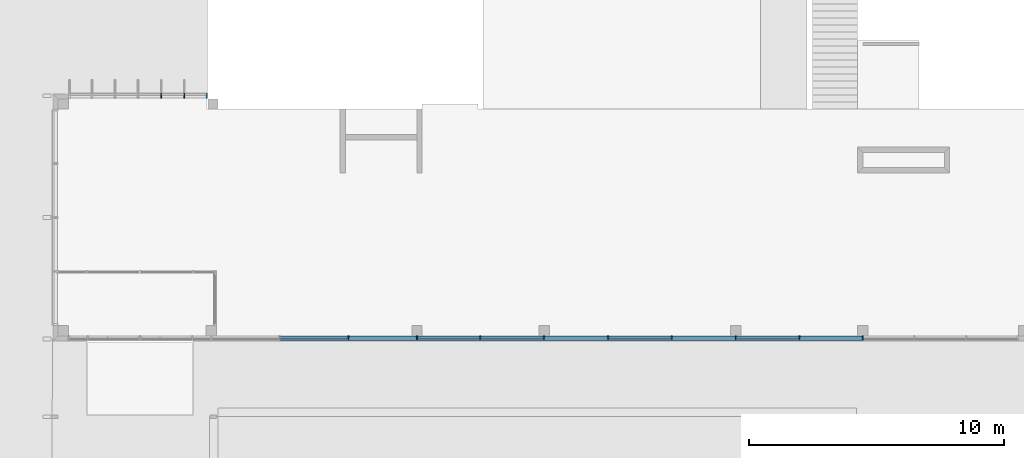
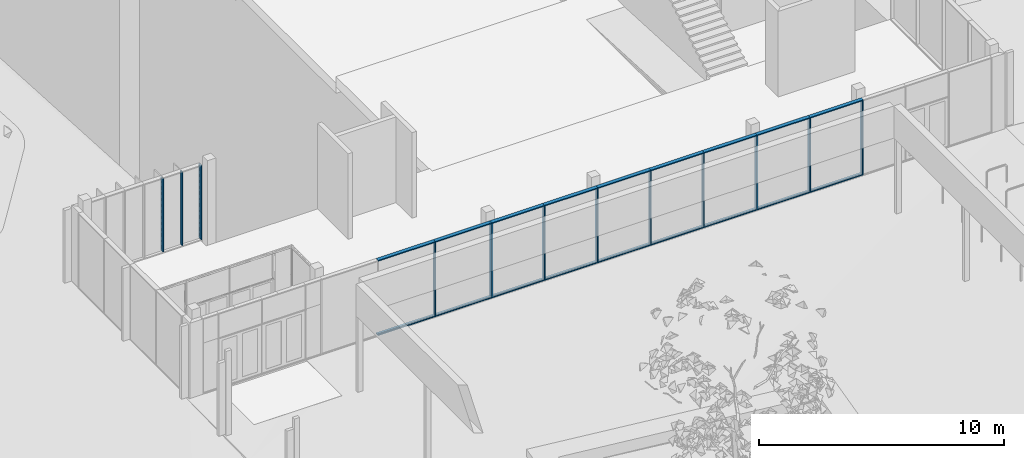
# One storey, part 5 of 69: 32 members, 4 elements without a shape of their own.
"""IFC2X3 building model written with IfcOpenShell, lengths in millimetres."""

from ifc_helpers import new_model, entity, si_unit, converted_unit, derived_unit, money_unit, direction, frame, origin_with_axes, place, context, subcontext, project, spatial, polyline, outline, extrude, clip, halfspace, material, type_object, element, aggregate, save


model = new_model("IFC2X3")

# Units and contexts
model_context = context("Model", 3, precision=0.01, world=origin_with_axes(), true_north=direction((0.0, 1.0)))
body_context = subcontext(model_context, "Body", "Model", "MODEL_VIEW")
ifc_project = project(units=[si_unit("LENGTHUNIT", "METRE", prefix="MILLI"), si_unit("AREAUNIT", "SQUARE_METRE"), si_unit("VOLUMEUNIT", "CUBIC_METRE"), converted_unit("PLANEANGLEUNIT", "DEGREE", entity("IfcPlaneAngleMeasure", 0.0174532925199), si_unit("PLANEANGLEUNIT", "RADIAN"), dimensions=[0, 0, 0, 0, 0, 0, 0]), si_unit("SOLIDANGLEUNIT", "STERADIAN"), money_unit("EUR"), converted_unit("TIMEUNIT", "Year", entity("IfcTimeMeasure", 31556926.0), si_unit("TIMEUNIT", "SECOND"), dimensions=[0, 0, 1, 0, 0, 0, 0]), si_unit("MASSUNIT", "GRAM", prefix="KILO"), si_unit("THERMODYNAMICTEMPERATUREUNIT", "DEGREE_CELSIUS"), si_unit("LUMINOUSINTENSITYUNIT", "LUMEN"), si_unit("ENERGYUNIT", "JOULE", prefix="MEGA"), derived_unit("THERMALCONDUCTANCEUNIT", [(si_unit("POWERUNIT", "WATT"), 1), (si_unit("LENGTHUNIT", "METRE"), -1), (si_unit("THERMODYNAMICTEMPERATUREUNIT", "KELVIN"), -1)]), derived_unit("SPECIFICHEATCAPACITYUNIT", [(si_unit("ENERGYUNIT", "JOULE"), 1), (si_unit("MASSUNIT", "GRAM", prefix="KILO"), -1), (si_unit("THERMODYNAMICTEMPERATUREUNIT", "KELVIN"), -1)]), derived_unit("MASSDENSITYUNIT", [(si_unit("MASSUNIT", "GRAM", prefix="KILO"), 1), (si_unit("VOLUMEUNIT", "CUBIC_METRE"), -1)])], contexts=[model_context])

# Site, building, storey
site_placement = place(None, origin_with_axes())
site = spatial("IfcSite", under=ifc_project, at=site_placement, Name="Puškini 31, Narva", CompositionType="ELEMENT")
building_placement = place(site_placement, origin_with_axes())
building = spatial("IfcBuilding", under=site, at=building_placement, Name="Narva Riigigümnaasium", CompositionType="ELEMENT")
storey_placement = place(building_placement, origin_with_axes())
storey = spatial("IfcBuildingStorey", under=building, at=storey_placement, Name="1.korrus 0.00", CompositionType="ELEMENT", Elevation=0.0)

# Curtain wall, members
curtain_wall_type = type_object("IfcCurtainWallType", Name="Curtain Wall Type", PredefinedType="NOTDEFINED")
curtain_wall_1_placement = place(storey_placement, frame((46469.7142802, 149970.00001, 0.0), z_axis=(0.0, 0.0, 1.0), x_axis=(1.0, 0.0, 0.0)))
curtain_wall_1 = element("IfcCurtainWall", 1, at=curtain_wall_1_placement, inside=storey, type_object=curtain_wall_type, Name="G-KLF-01")
ifc_material = material(Name="ET-04_Alumiinium")
member_type_1 = type_object("IfcMemberType", Name="Mullion Frame 50 x 176", PredefinedType="MULLION")
member_1_placement = place(curtain_wall_1_placement, frame((-1253.28571396, 0.0, 0.0), z_axis=(0.0, 0.0, 1.0), x_axis=(1.0, 0.0, 0.0)))
member_1 = element("IfcMember", 2, at=member_1_placement, type_object=member_type_1, material=ifc_material, Name="Klaasfassaadi raam", ObjectType="MULLION", context=body_context, shape_type="SweptSolid", body=[
    extrude(outline(polyline([(-10.0, 29.0), (-10.0, -29.0), (-25.0, -29.0), (-25.0, -46.0), (25.0, -46.0), (25.0, -29.0), (10.0, -29.0), (10.0, 29.0), (25.0, 29.0), (25.0, 130.0), (-25.0, 130.0), (-25.0, 29.0), (-10.0, 29.0)])), frame((0.0, 0.0, 50.0), z_axis=(0.0, 0.0, 1.0), x_axis=(1.0, 0.0, 0.0)), (0.0, 0.0, 1.0), 3660.0),
])
member_2_placement = place(curtain_wall_1_placement, frame((-3759.85714187, 0.0, 0.0), z_axis=(0.0, 0.0, 1.0), x_axis=(1.0, 0.0, 0.0)))
member_2 = element("IfcMember", 3, at=member_2_placement, type_object=member_type_1, material=ifc_material, Name="Klaasfassaadi raam", ObjectType="MULLION", context=body_context, shape_type="SweptSolid", body=[
    extrude(outline(polyline([(-10.0, 29.0), (-10.0, -29.0), (-25.0, -29.0), (-25.0, -46.0), (25.0, -46.0), (25.0, -29.0), (10.0, -29.0), (10.0, 29.0), (25.0, 29.0), (25.0, 130.0), (-25.0, 130.0), (-25.0, 29.0), (-10.0, 29.0)])), frame((0.0, 0.0, 50.0), z_axis=(0.0, 0.0, 1.0), x_axis=(1.0, 0.0, 0.0)), (0.0, 0.0, 1.0), 3660.0),
])
member_3_placement = place(curtain_wall_1_placement, frame((-6266.42856978, 0.0, 0.0), z_axis=(0.0, 0.0, 1.0), x_axis=(1.0, 0.0, 0.0)))
member_3 = element("IfcMember", 4, at=member_3_placement, type_object=member_type_1, material=ifc_material, Name="Klaasfassaadi raam", ObjectType="MULLION", context=body_context, shape_type="SweptSolid", body=[
    extrude(outline(polyline([(-10.0, 29.0), (-10.0, -29.0), (-25.0, -29.0), (-25.0, -46.0), (25.0, -46.0), (25.0, -29.0), (10.0, -29.0), (10.0, 29.0), (25.0, 29.0), (25.0, 130.0), (-25.0, 130.0), (-25.0, 29.0), (-10.0, 29.0)])), frame((0.0, 0.0, 50.0), z_axis=(0.0, 0.0, 1.0), x_axis=(1.0, 0.0, 0.0)), (0.0, 0.0, 1.0), 3660.0),
])
member_4_placement = place(curtain_wall_1_placement, frame((-8772.99999769, 0.0, 0.0), z_axis=(0.0, 0.0, 1.0), x_axis=(1.0, 0.0, 0.0)))
member_4 = element("IfcMember", 5, at=member_4_placement, type_object=member_type_1, material=ifc_material, Name="Klaasfassaadi raam", ObjectType="MULLION", context=body_context, shape_type="SweptSolid", body=[
    extrude(outline(polyline([(-10.0, 29.0), (-10.0, -29.0), (-25.0, -29.0), (-25.0, -46.0), (25.0, -46.0), (25.0, -29.0), (10.0, -29.0), (10.0, 29.0), (25.0, 29.0), (25.0, 130.0), (-25.0, 130.0), (-25.0, 29.0), (-10.0, 29.0)])), frame((0.0, 0.0, 50.0), z_axis=(0.0, 0.0, 1.0), x_axis=(1.0, 0.0, 0.0)), (0.0, 0.0, 1.0), 3660.0),
])
member_5_placement = place(curtain_wall_1_placement, frame((-11279.5714256, 0.0, 0.0), z_axis=(0.0, 0.0, 1.0), x_axis=(1.0, 0.0, 0.0)))
member_5 = element("IfcMember", 6, at=member_5_placement, type_object=member_type_1, material=ifc_material, Name="Klaasfassaadi raam", ObjectType="MULLION", context=body_context, shape_type="SweptSolid", body=[
    extrude(outline(polyline([(-10.0, 29.0), (-10.0, -29.0), (-25.0, -29.0), (-25.0, -46.0), (25.0, -46.0), (25.0, -29.0), (10.0, -29.0), (10.0, 29.0), (25.0, 29.0), (25.0, 130.0), (-25.0, 130.0), (-25.0, 29.0), (-10.0, 29.0)])), frame((0.0, 0.0, 50.0), z_axis=(0.0, 0.0, 1.0), x_axis=(1.0, 0.0, 0.0)), (0.0, 0.0, 1.0), 3660.0),
])
member_6_placement = place(curtain_wall_1_placement, frame((-13786.1428535, 0.0, 0.0), z_axis=(0.0, 0.0, 1.0), x_axis=(1.0, 0.0, 0.0)))
member_6 = element("IfcMember", 7, at=member_6_placement, type_object=member_type_1, material=ifc_material, Name="Klaasfassaadi raam", ObjectType="MULLION", context=body_context, shape_type="SweptSolid", body=[
    extrude(outline(polyline([(-10.0, 29.0), (-10.0, -29.0), (-25.0, -29.0), (-25.0, -46.0), (25.0, -46.0), (25.0, -29.0), (10.0, -29.0), (10.0, 29.0), (25.0, 29.0), (25.0, 130.0), (-25.0, 130.0), (-25.0, 29.0), (-10.0, 29.0)])), frame((0.0, 0.0, 50.0), z_axis=(0.0, 0.0, 1.0), x_axis=(1.0, 0.0, 0.0)), (0.0, 0.0, 1.0), 3660.0),
])

# Curtain wall, member
curtain_wall_2_placement = place(storey_placement, frame((28873.394571, 149970.00001, 0.0), z_axis=(0.0, 0.0, 1.0), x_axis=(1.0, 0.0, 0.0)))
curtain_wall_2 = element("IfcCurtainWall", 8, at=curtain_wall_2_placement, inside=storey, type_object=curtain_wall_type, Name="G-KLF-01b")
member_7_placement = place(curtain_wall_2_placement, frame((-1353.60542777, 0.0, 0.0), z_axis=(0.0, 0.0, 1.0), x_axis=(1.0, 0.0, 0.0)))
member_7 = element("IfcMember", 9, at=member_7_placement, type_object=member_type_1, material=ifc_material, Name="Klaasfassaadi raam", ObjectType="MULLION", context=body_context, shape_type="SweptSolid", body=[
    extrude(outline(polyline([(-10.0, 29.0), (-10.0, -29.0), (-25.0, -29.0), (-25.0, -46.0), (25.0, -46.0), (25.0, -29.0), (10.0, -29.0), (10.0, 29.0), (25.0, 29.0), (25.0, 130.0), (-25.0, 130.0), (-25.0, 29.0), (-10.0, 29.0)])), frame((0.0, 0.0, 50.0), z_axis=(0.0, 0.0, 1.0), x_axis=(1.0, 0.0, 0.0)), (0.0, 0.0, 1.0), 3660.0),
])

# Member
member_type_2 = type_object("IfcMemberType", Name="Boundary Frame 50 x 176", PredefinedType="MULLION")
member_8_placement = place(curtain_wall_1_placement, frame((1253.28571396, 0.0, 0.0), z_axis=(-1.0, 0.0, 0.0), x_axis=(0.0, 0.0, 1.0)))
member_8 = element("IfcMember", 10, at=member_8_placement, type_object=member_type_2, material=ifc_material, Name="Klaasfassaadi raam", ObjectType="MULLION", context=body_context, shape_type="Clipping", body=[
    clip(extrude(outline(polyline([(29.0, -35.0), (29.0, -50.0), (130.0, -50.0), (130.0, 0.0), (-46.0, 0.0), (-46.0, -50.0), (-29.0, -50.0), (-29.0, -35.0), (29.0, -35.0)])), frame((0.0, 0.0, 0.0), z_axis=(0.0, 0.0, 1.0), x_axis=(0.0, 1.0, 0.0)), (0.0, 0.0, 1.0), 2506.57142791), halfspace(frame((0.0, 0.0, 0.0), z_axis=(-0.707106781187, 0.0, 0.707106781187), x_axis=(0.0, -1.0, 0.0)), True)),
])

member_9_placement = place(curtain_wall_1_placement, frame((1253.28571396, 0.0, 3760.0), z_axis=(-1.0, 0.0, 0.0), x_axis=(0.0, 0.0, 1.0)))
member_9 = element("IfcMember", 11, at=member_9_placement, type_object=member_type_2, material=ifc_material, Name="Klaasfassaadi raam", ObjectType="MULLION", context=body_context, shape_type="Clipping", body=[
    clip(extrude(outline(polyline([(29.0, 35.0), (-29.0, 35.0), (-29.0, 50.0), (-46.0, 50.0), (-46.0, 0.0), (130.0, 0.0), (130.0, 50.0), (29.0, 50.0), (29.0, 35.0)])), frame((0.0, 0.0, 0.0), z_axis=(0.0, 0.0, 1.0), x_axis=(0.0, 1.0, 0.0)), (0.0, 0.0, 1.0), 2506.57142791), halfspace(frame((0.0, 0.0, 0.0), z_axis=(0.707106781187, 0.0, 0.707106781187), x_axis=(0.0, -1.0, 0.0)), True)),
])

member_10_placement = place(curtain_wall_1_placement, frame((1253.28571396, 0.0, 0.0), z_axis=(0.0, 0.0, 1.0), x_axis=(1.0, 0.0, 0.0)))
member_10 = element("IfcMember", 12, at=member_10_placement, type_object=member_type_2, material=ifc_material, Name="Klaasfassaadi raam", ObjectType="MULLION", context=body_context, shape_type="Clipping", body=[
    clip(clip(extrude(outline(polyline([(-35.0, 29.0), (-35.0, -29.0), (-50.0, -29.0), (-50.0, -46.0), (0.0, -46.0), (0.0, 130.0), (-50.0, 130.0), (-50.0, 29.0), (-35.0, 29.0)])), origin_with_axes(), (0.0, 0.0, 1.0), 3760.0), halfspace(frame((-1880.0, 0.0, 1880.0), z_axis=(0.707106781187, 0.0, -0.707106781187), x_axis=(0.0, 1.0, 0.0)), True)), halfspace(frame((0.0, 0.0, 0.0), z_axis=(0.707106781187, 0.0, 0.707106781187), x_axis=(0.0, -1.0, 0.0)), True)),
])

member_11_placement = place(curtain_wall_1_placement, frame((-1253.28571396, 0.0, 0.0), z_axis=(-1.0, 0.0, 0.0), x_axis=(0.0, 0.0, 1.0)))
member_11 = element("IfcMember", 13, at=member_11_placement, type_object=member_type_2, material=ifc_material, Name="Klaasfassaadi raam", ObjectType="MULLION", context=body_context, shape_type="SweptSolid", body=[
    extrude(outline(polyline([(29.0, -35.0), (29.0, -50.0), (130.0, -50.0), (130.0, 0.0), (-46.0, 0.0), (-46.0, -50.0), (-29.0, -50.0), (-29.0, -35.0), (29.0, -35.0)])), frame((0.0, 0.0, 0.0), z_axis=(0.0, 0.0, 1.0), x_axis=(0.0, 1.0, 0.0)), (0.0, 0.0, 1.0), 2506.57142791),
])

member_12_placement = place(curtain_wall_1_placement, frame((-1253.28571396, 0.0, 3760.0), z_axis=(-1.0, 0.0, 0.0), x_axis=(0.0, 0.0, 1.0)))
member_12 = element("IfcMember", 14, at=member_12_placement, type_object=member_type_2, material=ifc_material, Name="Klaasfassaadi raam", ObjectType="MULLION", context=body_context, shape_type="SweptSolid", body=[
    extrude(outline(polyline([(29.0, 35.0), (-29.0, 35.0), (-29.0, 50.0), (-46.0, 50.0), (-46.0, 0.0), (130.0, 0.0), (130.0, 50.0), (29.0, 50.0), (29.0, 35.0)])), frame((0.0, 0.0, 0.0), z_axis=(0.0, 0.0, 1.0), x_axis=(0.0, 1.0, 0.0)), (0.0, 0.0, 1.0), 2506.57142791),
])

member_13_placement = place(curtain_wall_1_placement, frame((-3759.85714187, 0.0, 0.0), z_axis=(-1.0, 0.0, 0.0), x_axis=(0.0, 0.0, 1.0)))
member_13 = element("IfcMember", 15, at=member_13_placement, type_object=member_type_2, material=ifc_material, Name="Klaasfassaadi raam", ObjectType="MULLION", context=body_context, shape_type="SweptSolid", body=[
    extrude(outline(polyline([(29.0, -35.0), (29.0, -50.0), (130.0, -50.0), (130.0, 0.0), (-46.0, 0.0), (-46.0, -50.0), (-29.0, -50.0), (-29.0, -35.0), (29.0, -35.0)])), frame((0.0, 0.0, 0.0), z_axis=(0.0, 0.0, 1.0), x_axis=(0.0, 1.0, 0.0)), (0.0, 0.0, 1.0), 2506.57142791),
])

member_14_placement = place(curtain_wall_1_placement, frame((-3759.85714187, 0.0, 3760.0), z_axis=(-1.0, 0.0, 0.0), x_axis=(0.0, 0.0, 1.0)))
member_14 = element("IfcMember", 16, at=member_14_placement, type_object=member_type_2, material=ifc_material, Name="Klaasfassaadi raam", ObjectType="MULLION", context=body_context, shape_type="SweptSolid", body=[
    extrude(outline(polyline([(29.0, 35.0), (-29.0, 35.0), (-29.0, 50.0), (-46.0, 50.0), (-46.0, 0.0), (130.0, 0.0), (130.0, 50.0), (29.0, 50.0), (29.0, 35.0)])), frame((0.0, 0.0, 0.0), z_axis=(0.0, 0.0, 1.0), x_axis=(0.0, 1.0, 0.0)), (0.0, 0.0, 1.0), 2506.57142791),
])

member_15_placement = place(curtain_wall_1_placement, frame((-6266.42856978, 0.0, 0.0), z_axis=(-1.0, 0.0, 0.0), x_axis=(0.0, 0.0, 1.0)))
member_15 = element("IfcMember", 17, at=member_15_placement, type_object=member_type_2, material=ifc_material, Name="Klaasfassaadi raam", ObjectType="MULLION", context=body_context, shape_type="SweptSolid", body=[
    extrude(outline(polyline([(29.0, -35.0), (29.0, -50.0), (130.0, -50.0), (130.0, 0.0), (-46.0, 0.0), (-46.0, -50.0), (-29.0, -50.0), (-29.0, -35.0), (29.0, -35.0)])), frame((0.0, 0.0, 0.0), z_axis=(0.0, 0.0, 1.0), x_axis=(0.0, 1.0, 0.0)), (0.0, 0.0, 1.0), 2506.57142791),
])

member_16_placement = place(curtain_wall_1_placement, frame((-6266.42856978, 0.0, 3760.0), z_axis=(-1.0, 0.0, 0.0), x_axis=(0.0, 0.0, 1.0)))
member_16 = element("IfcMember", 18, at=member_16_placement, type_object=member_type_2, material=ifc_material, Name="Klaasfassaadi raam", ObjectType="MULLION", context=body_context, shape_type="SweptSolid", body=[
    extrude(outline(polyline([(29.0, 35.0), (-29.0, 35.0), (-29.0, 50.0), (-46.0, 50.0), (-46.0, 0.0), (130.0, 0.0), (130.0, 50.0), (29.0, 50.0), (29.0, 35.0)])), frame((0.0, 0.0, 0.0), z_axis=(0.0, 0.0, 1.0), x_axis=(0.0, 1.0, 0.0)), (0.0, 0.0, 1.0), 2506.57142791),
])

member_17_placement = place(curtain_wall_1_placement, frame((-8772.99999769, 0.0, 0.0), z_axis=(-1.0, 0.0, 0.0), x_axis=(0.0, 0.0, 1.0)))
member_17 = element("IfcMember", 19, at=member_17_placement, type_object=member_type_2, material=ifc_material, Name="Klaasfassaadi raam", ObjectType="MULLION", context=body_context, shape_type="SweptSolid", body=[
    extrude(outline(polyline([(29.0, -35.0), (29.0, -50.0), (130.0, -50.0), (130.0, 0.0), (-46.0, 0.0), (-46.0, -50.0), (-29.0, -50.0), (-29.0, -35.0), (29.0, -35.0)])), frame((0.0, 0.0, 0.0), z_axis=(0.0, 0.0, 1.0), x_axis=(0.0, 1.0, 0.0)), (0.0, 0.0, 1.0), 2506.57142791),
])

member_18_placement = place(curtain_wall_1_placement, frame((-8772.99999769, 0.0, 3760.0), z_axis=(-1.0, 0.0, 0.0), x_axis=(0.0, 0.0, 1.0)))
member_18 = element("IfcMember", 20, at=member_18_placement, type_object=member_type_2, material=ifc_material, Name="Klaasfassaadi raam", ObjectType="MULLION", context=body_context, shape_type="SweptSolid", body=[
    extrude(outline(polyline([(29.0, 35.0), (-29.0, 35.0), (-29.0, 50.0), (-46.0, 50.0), (-46.0, 0.0), (130.0, 0.0), (130.0, 50.0), (29.0, 50.0), (29.0, 35.0)])), frame((0.0, 0.0, 0.0), z_axis=(0.0, 0.0, 1.0), x_axis=(0.0, 1.0, 0.0)), (0.0, 0.0, 1.0), 2506.57142791),
])

member_19_placement = place(curtain_wall_1_placement, frame((-11279.5714256, 0.0, 0.0), z_axis=(-1.0, 0.0, 0.0), x_axis=(0.0, 0.0, 1.0)))
member_19 = element("IfcMember", 21, at=member_19_placement, type_object=member_type_2, material=ifc_material, Name="Klaasfassaadi raam", ObjectType="MULLION", context=body_context, shape_type="SweptSolid", body=[
    extrude(outline(polyline([(29.0, -35.0), (29.0, -50.0), (130.0, -50.0), (130.0, 0.0), (-46.0, 0.0), (-46.0, -50.0), (-29.0, -50.0), (-29.0, -35.0), (29.0, -35.0)])), frame((0.0, 0.0, 0.0), z_axis=(0.0, 0.0, 1.0), x_axis=(0.0, 1.0, 0.0)), (0.0, 0.0, 1.0), 2506.57142791),
])

member_20_placement = place(curtain_wall_1_placement, frame((-11279.5714256, 0.0, 3760.0), z_axis=(-1.0, 0.0, 0.0), x_axis=(0.0, 0.0, 1.0)))
member_20 = element("IfcMember", 22, at=member_20_placement, type_object=member_type_2, material=ifc_material, Name="Klaasfassaadi raam", ObjectType="MULLION", context=body_context, shape_type="SweptSolid", body=[
    extrude(outline(polyline([(29.0, 35.0), (-29.0, 35.0), (-29.0, 50.0), (-46.0, 50.0), (-46.0, 0.0), (130.0, 0.0), (130.0, 50.0), (29.0, 50.0), (29.0, 35.0)])), frame((0.0, 0.0, 0.0), z_axis=(0.0, 0.0, 1.0), x_axis=(0.0, 1.0, 0.0)), (0.0, 0.0, 1.0), 2506.57142791),
])

member_21_placement = place(curtain_wall_1_placement, frame((-13786.1428535, 0.0, 0.0), z_axis=(-1.0, 0.0, 0.0), x_axis=(0.0, 0.0, 1.0)))
member_21 = element("IfcMember", 23, at=member_21_placement, type_object=member_type_2, material=ifc_material, Name="Klaasfassaadi raam", ObjectType="MULLION", context=body_context, shape_type="Clipping", body=[
    clip(extrude(outline(polyline([(29.0, -35.0), (29.0, -50.0), (130.0, -50.0), (130.0, 0.0), (-46.0, 0.0), (-46.0, -50.0), (-29.0, -50.0), (-29.0, -35.0), (29.0, -35.0)])), frame((0.0, 0.0, 0.0), z_axis=(0.0, 0.0, 1.0), x_axis=(0.0, 1.0, 0.0)), (0.0, 0.0, 1.0), 2506.57142791), halfspace(frame((1253.28571396, 0.0, 1253.28571396), z_axis=(-0.707106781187, 0.0, -0.707106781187), x_axis=(0.0, 1.0, 0.0)), True)),
])

member_22_placement = place(curtain_wall_1_placement, frame((-16292.7142814, 0.0, 0.0), z_axis=(0.0, 0.0, 1.0), x_axis=(1.0, 0.0, 0.0)))
member_22 = element("IfcMember", 24, at=member_22_placement, type_object=member_type_2, material=ifc_material, Name="Klaasfassaadi raam", ObjectType="MULLION", context=body_context, shape_type="Clipping", body=[
    clip(clip(extrude(outline(polyline([(35.0, 29.0), (50.0, 29.0), (50.0, 130.0), (0.0, 130.0), (0.0, -46.0), (50.0, -46.0), (50.0, -29.0), (35.0, -29.0), (35.0, 29.0)])), origin_with_axes(), (0.0, 0.0, 1.0), 3760.0), halfspace(frame((1880.0, 0.0, 1880.0), z_axis=(-0.707106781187, 0.0, -0.707106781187), x_axis=(0.0, 1.0, 0.0)), True)), halfspace(frame((0.0, 0.0, 0.0), z_axis=(-0.707106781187, 0.0, 0.707106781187), x_axis=(0.0, -1.0, 0.0)), True)),
])

member_23_placement = place(curtain_wall_1_placement, frame((-13786.1428535, 0.0, 3760.0), z_axis=(-1.0, 0.0, 0.0), x_axis=(0.0, 0.0, 1.0)))
member_23 = element("IfcMember", 25, at=member_23_placement, type_object=member_type_2, material=ifc_material, Name="Klaasfassaadi raam", ObjectType="MULLION", context=body_context, shape_type="Clipping", body=[
    clip(extrude(outline(polyline([(29.0, 35.0), (-29.0, 35.0), (-29.0, 50.0), (-46.0, 50.0), (-46.0, 0.0), (130.0, 0.0), (130.0, 50.0), (29.0, 50.0), (29.0, 35.0)])), frame((0.0, 0.0, 0.0), z_axis=(0.0, 0.0, 1.0), x_axis=(0.0, 1.0, 0.0)), (0.0, 0.0, 1.0), 2506.57142791), halfspace(frame((-1253.28571396, 0.0, 1253.28571396), z_axis=(0.707106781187, 0.0, -0.707106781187), x_axis=(0.0, 1.0, 0.0)), True)),
])

aggregate(curtain_wall_1, [member_8, member_9, member_10, member_11, member_12, member_1, member_13, member_14, member_2, member_15, member_16, member_3, member_17, member_18, member_4, member_19, member_20, member_5, member_21, member_22, member_23, member_6])

member_24_placement = place(curtain_wall_2_placement, frame((1353.60542777, 0.0, 0.0), z_axis=(-1.0, 0.0, 0.0), x_axis=(0.0, 0.0, 1.0)))
member_24 = element("IfcMember", 26, at=member_24_placement, type_object=member_type_2, material=ifc_material, Name="Klaasfassaadi raam", ObjectType="MULLION", context=body_context, shape_type="Clipping", body=[
    clip(extrude(outline(polyline([(29.0, -35.0), (29.0, -50.0), (130.0, -50.0), (130.0, 0.0), (-46.0, 0.0), (-46.0, -50.0), (-29.0, -50.0), (-29.0, -35.0), (29.0, -35.0)])), frame((0.0, 0.0, 0.0), z_axis=(0.0, 0.0, 1.0), x_axis=(0.0, 1.0, 0.0)), (0.0, 0.0, 1.0), 2707.21085553), halfspace(frame((0.0, 0.0, 0.0), z_axis=(-0.707106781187, 0.0, 0.707106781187), x_axis=(0.0, -1.0, 0.0)), True)),
])

member_25_placement = place(curtain_wall_2_placement, frame((1353.60542777, 0.0, 3760.0), z_axis=(-1.0, 0.0, 0.0), x_axis=(0.0, 0.0, 1.0)))
member_25 = element("IfcMember", 27, at=member_25_placement, type_object=member_type_2, material=ifc_material, Name="Klaasfassaadi raam", ObjectType="MULLION", context=body_context, shape_type="Clipping", body=[
    clip(extrude(outline(polyline([(29.0, 35.0), (-29.0, 35.0), (-29.0, 50.0), (-46.0, 50.0), (-46.0, 0.0), (130.0, 0.0), (130.0, 50.0), (29.0, 50.0), (29.0, 35.0)])), frame((0.0, 0.0, 0.0), z_axis=(0.0, 0.0, 1.0), x_axis=(0.0, 1.0, 0.0)), (0.0, 0.0, 1.0), 2707.21085553), halfspace(frame((0.0, 0.0, 0.0), z_axis=(0.707106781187, 0.0, 0.707106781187), x_axis=(0.0, -1.0, 0.0)), True)),
])

member_26_placement = place(curtain_wall_2_placement, frame((1353.60542777, 0.0, 0.0), z_axis=(0.0, 0.0, 1.0), x_axis=(1.0, 0.0, 0.0)))
member_26 = element("IfcMember", 28, at=member_26_placement, type_object=member_type_2, material=ifc_material, Name="Klaasfassaadi raam", ObjectType="MULLION", context=body_context, shape_type="Clipping", body=[
    clip(clip(extrude(outline(polyline([(-35.0, 29.0), (-35.0, -29.0), (-50.0, -29.0), (-50.0, -46.0), (0.0, -46.0), (0.0, 130.0), (-50.0, 130.0), (-50.0, 29.0), (-35.0, 29.0)])), origin_with_axes(), (0.0, 0.0, 1.0), 3760.0), halfspace(frame((-1880.0, 0.0, 1880.0), z_axis=(0.707106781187, 0.0, -0.707106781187), x_axis=(0.0, 1.0, 0.0)), True)), halfspace(frame((0.0, 0.0, 0.0), z_axis=(0.707106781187, 0.0, 0.707106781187), x_axis=(0.0, -1.0, 0.0)), True)),
])

member_27_placement = place(curtain_wall_2_placement, frame((-1353.60542777, 0.0, 0.0), z_axis=(-1.0, 0.0, 0.0), x_axis=(0.0, 0.0, 1.0)))
member_27 = element("IfcMember", 29, at=member_27_placement, type_object=member_type_2, material=ifc_material, Name="Klaasfassaadi raam", ObjectType="MULLION", context=body_context, shape_type="SweptSolid", body=[
    extrude(outline(polyline([(29.0, -35.0), (29.0, -50.0), (130.0, -50.0), (130.0, 0.0), (-46.0, 0.0), (-46.0, -50.0), (-29.0, -50.0), (-29.0, -35.0), (29.0, -35.0)])), frame((0.0, 0.0, 0.0), z_axis=(0.0, 0.0, 1.0), x_axis=(0.0, 1.0, 0.0)), (0.0, 0.0, 1.0), 2707.21085553),
])

member_28_placement = place(curtain_wall_2_placement, frame((-1353.60542777, 0.0, 3760.0), z_axis=(-1.0, 0.0, 0.0), x_axis=(0.0, 0.0, 1.0)))
member_28 = element("IfcMember", 30, at=member_28_placement, type_object=member_type_2, material=ifc_material, Name="Klaasfassaadi raam", ObjectType="MULLION", context=body_context, shape_type="SweptSolid", body=[
    extrude(outline(polyline([(29.0, 35.0), (-29.0, 35.0), (-29.0, 50.0), (-46.0, 50.0), (-46.0, 0.0), (130.0, 0.0), (130.0, 50.0), (29.0, 50.0), (29.0, 35.0)])), frame((0.0, 0.0, 0.0), z_axis=(0.0, 0.0, 1.0), x_axis=(0.0, 1.0, 0.0)), (0.0, 0.0, 1.0), 2707.21085553),
])

aggregate(curtain_wall_2, [member_24, member_25, member_26, member_27, member_28, member_7])

# Curtain wall, member
curtain_wall_3_placement = place(storey_placement, frame((52576.1999988, 149970.00001, 0.0), z_axis=(0.0, 0.0, 1.0), x_axis=(1.0, 0.0, 0.0)))
curtain_wall_3 = element("IfcCurtainWall", 31, at=curtain_wall_3_placement, inside=storey, type_object=curtain_wall_type, Name="G-KLF-01c")
member_29_placement = place(curtain_wall_3_placement, frame((-4903.20000466, 0.0, 0.0), z_axis=(0.0, 0.0, 1.0), x_axis=(1.0, 0.0, 0.0)))
member_29 = element("IfcMember", 32, at=member_29_placement, type_object=member_type_2, material=ifc_material, Name="Klaasfassaadi raam", ObjectType="MULLION", context=body_context, shape_type="Clipping", body=[
    clip(clip(extrude(outline(polyline([(35.0, 29.0), (50.0, 29.0), (50.0, 130.0), (0.0, 130.0), (0.0, -46.0), (50.0, -46.0), (50.0, -29.0), (35.0, -29.0), (35.0, 29.0)])), origin_with_axes(), (0.0, 0.0, 1.0), 3760.0), halfspace(frame((1880.0, 0.0, 1880.0), z_axis=(-0.707106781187, 0.0, -0.707106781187), x_axis=(0.0, 1.0, 0.0)), True)), halfspace(frame((0.0, 0.0, 0.0), z_axis=(-0.707106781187, 0.0, 0.707106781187), x_axis=(0.0, -1.0, 0.0)), True)),
])
aggregate(curtain_wall_3, [member_29])

# Curtain wall, members
curtain_wall_4_placement = place(storey_placement, frame((17902.9999992, 159574.999987, -0.000108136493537), z_axis=(0.0, 0.0, 1.0), x_axis=(1.0, 0.0, 0.0)))
curtain_wall_4 = element("IfcCurtainWall", 33, at=curtain_wall_4_placement, inside=storey, type_object=curtain_wall_type, Name="G-KLF-03")
member_type_3 = type_object("IfcMemberType", Name="Boundary Frame 50 x 196", PredefinedType="MULLION")
member_30_placement = place(curtain_wall_4_placement, frame((4076.99999929, 0.0, 0.0), z_axis=(0.0, 0.0, 1.0), x_axis=(-1.0, 0.0, 0.0)))
member_30 = element("IfcMember", 34, at=member_30_placement, type_object=member_type_3, material=ifc_material, Name="klaasfassaadi raam", ObjectType="MULLION", context=body_context, shape_type="Clipping", body=[
    clip(clip(extrude(outline(polyline([(-35.0, -31.0), (-50.0, -31.0), (-50.0, -150.0), (0.0, -150.0), (0.0, 46.0), (-50.0, 46.0), (-50.0, 31.0), (-35.0, 31.0), (-35.0, -31.0)])), frame((0.0, 0.0, 0.0), z_axis=(0.0, 0.0, 1.0), x_axis=(-1.0, 0.0, 0.0)), (0.0, 0.0, 1.0), 3760.00010175), halfspace(frame((1880.00005087, 0.0, 1880.00005087), z_axis=(-0.707106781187, 0.0, -0.707106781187), x_axis=(0.0, 1.0, 0.0)), True)), halfspace(frame((0.0, 0.0, 0.0), z_axis=(-0.707106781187, 0.0, 0.707106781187), x_axis=(0.0, -1.0, 0.0)), True)),
])
member_type_4 = type_object("IfcMemberType", Name="Mullion Frame 50 x 196", PredefinedType="MULLION")
member_31_placement = place(curtain_wall_4_placement, frame((2264.99999961, 0.0, 0.0), z_axis=(0.0, 0.0, 1.0), x_axis=(-1.0, 0.0, 0.0)))
member_31 = element("IfcMember", 35, at=member_31_placement, type_object=member_type_4, material=ifc_material, Name="klaasfassaadi raam", ObjectType="MULLION", context=body_context, shape_type="SweptSolid", body=[
    extrude(outline(polyline([(10.0, -31.0), (10.0, 31.0), (25.0, 31.0), (25.0, 46.0), (-25.0, 46.0), (-25.0, 31.0), (-10.0, 31.0), (-10.0, -31.0), (-25.0, -31.0), (-25.0, -150.0), (25.0, -150.0), (25.0, -31.0), (10.0, -31.0)])), frame((0.0, 0.0, 50.0), z_axis=(0.0, 0.0, 1.0), x_axis=(-1.0, 0.0, 0.0)), (0.0, 0.0, 1.0), 3660.00010175),
])
member_32_placement = place(curtain_wall_4_placement, frame((3170.99999945, 0.0, 0.0), z_axis=(0.0, 0.0, 1.0), x_axis=(-1.0, 0.0, 0.0)))
member_32 = element("IfcMember", 36, at=member_32_placement, type_object=member_type_4, material=ifc_material, Name="klaasfassaadi raam", ObjectType="MULLION", context=body_context, shape_type="SweptSolid", body=[
    extrude(outline(polyline([(10.0, -31.0), (10.0, 31.0), (25.0, 31.0), (25.0, 46.0), (-25.0, 46.0), (-25.0, 31.0), (-10.0, 31.0), (-10.0, -31.0), (-25.0, -31.0), (-25.0, -150.0), (25.0, -150.0), (25.0, -31.0), (10.0, -31.0)])), frame((0.0, 0.0, 50.0), z_axis=(0.0, 0.0, 1.0), x_axis=(-1.0, 0.0, 0.0)), (0.0, 0.0, 1.0), 3660.00010175),
])
aggregate(curtain_wall_4, [member_31, member_32, member_30])

save(model, "model.ifc")
